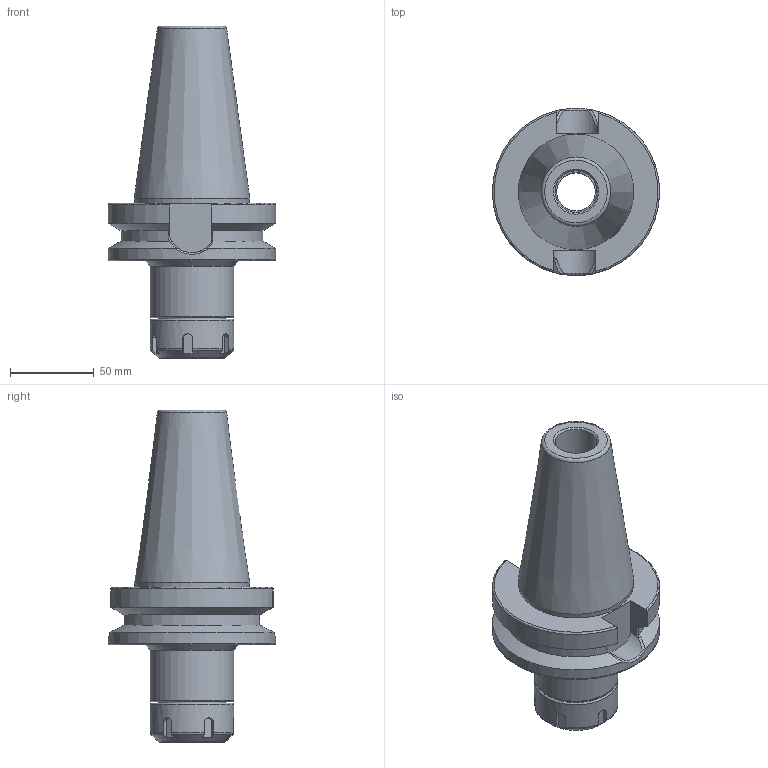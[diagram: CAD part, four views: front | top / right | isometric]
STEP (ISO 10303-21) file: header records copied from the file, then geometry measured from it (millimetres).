
FILE_DESCRIPTION(/* description */ (''),/* implementation_level */ '2;1');
FILE_NAME(/* name */ 'Z:\Проектный отдел\Алена\Патроны\BT50-ER32-100\BT50-ER32-100 сборка.stp',/* time_stamp */ '2023-12-25T15:53:26+03:00',/* author */ ('User'),/* organization */ (''),/* preprocessor_version */ 'ST-DEVELOPER v18',/* originating_system */ 'Autodesk Inventor 2020',/* authorisation */ '');
FILE_SCHEMA (('AUTOMOTIVE_DESIGN { 1 0 10303 214 3 1 1 }'));
Length unit declared in the file: millimetre
Products named in the file (3): BT50-ER32-100 сборка; BT50-ER32-100; Крышка
Assembly tree (2 placements, depth 2):
  BT50-ER32-100 сборка
    BT50-ER32-100
    Крышка
Bounding box: 100 x 100 x 198.5 mm (x, y, z)
Volume: 514652.6 mm3; surface area: 73700.6 mm2
Topology: 2 solids, 2 shells, 99 faces, 303 edges, 213 vertices
Faces by surface type: plane 43, cylinder 19, torus 17, bspline 10, cone 10
Full cylindrical faces by diameter (mm): 23 x1, 25 x1, 40 x2, 50 x2, 100 x1
Entity records: 4075 total; most frequent: CARTESIAN_POINT 1356, ORIENTED_EDGE 606, DIRECTION 501, EDGE_CURVE 303, VERTEX_POINT 213, AXIS2_PLACEMENT_3D 204, CIRCLE 110, EDGE_LOOP 108
